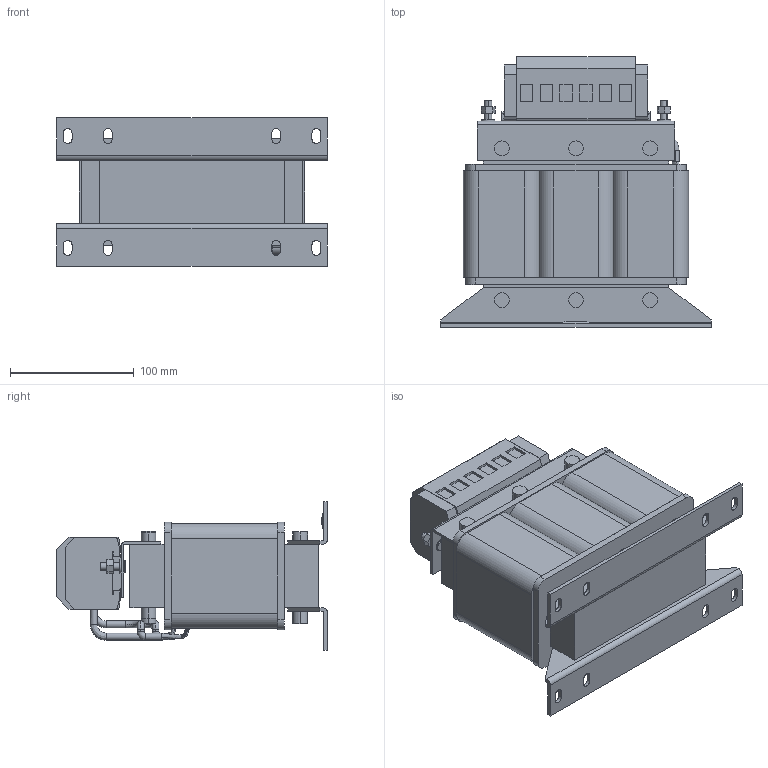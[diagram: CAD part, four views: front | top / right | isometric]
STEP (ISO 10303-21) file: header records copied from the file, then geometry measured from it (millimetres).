
FILE_DESCRIPTION (( 'STEP AP214' ), '1' );
FILE_NAME ('00Z10X0-0020.STEP', '2021-07-15T07:27:28', ( '' ), ( '' ), 'SwSTEP 2.0', 'SolidWorks 2019', '' );
FILE_SCHEMA (( 'AUTOMOTIVE_DESIGN' ));
Length unit declared in the file: millimetre
Products named in the file (1): 00Z10X0-0020
Bounding box: 219 x 218.9 x 120.3 mm (x, y, z)
Volume: 2360434.5 mm3; surface area: 206162.8 mm2
Topology: 1 solids, 1 shells, 530 faces, 1380 edges, 883 vertices
Faces by surface type: plane 251, cylinder 181, torus 64, bspline 34
Entity records: 21215 total; most frequent: CARTESIAN_POINT 7851, ORIENTED_EDGE 2760, DIRECTION 2676, EDGE_CURVE 1380, AXIS2_PLACEMENT_3D 974, VERTEX_POINT 883, VECTOR 728, LINE 728
